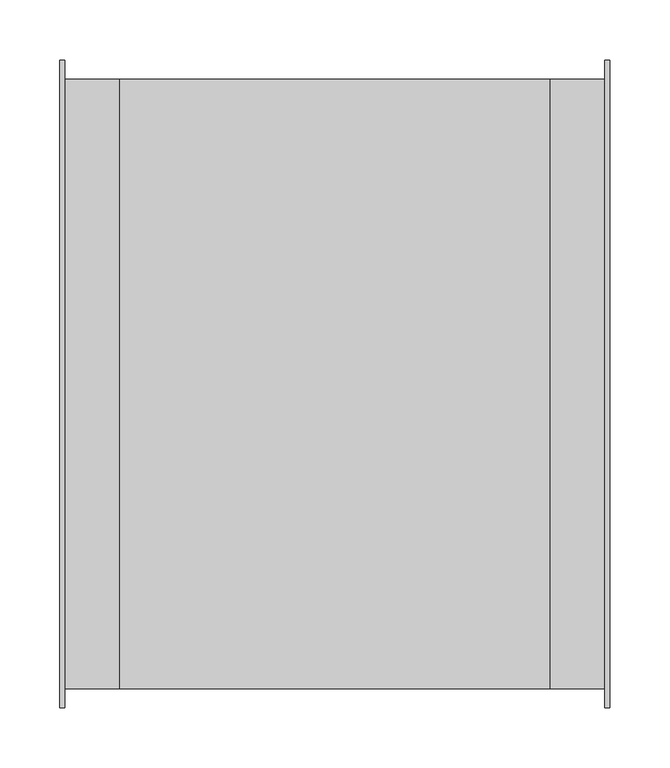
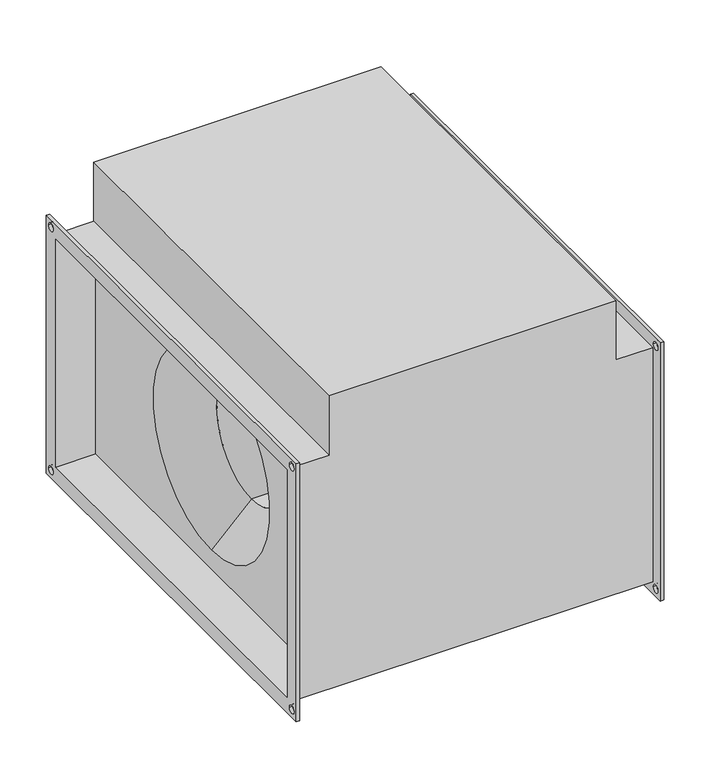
"""IFC4 building model written with IfcOpenShell, lengths in millimetres: proxy geometry, СВ_Вентилятор_КанальныйПрямоугольный_200-1000_SVPS : SVPS-500x300/25.2D."""

from ifc_helpers import new_model, si_unit, frame, origin, place, context, project, spatial, polyline, circle_curve, source, transform, mapped, element, save
from ifc_brep_helpers import plane_surface, revolved_surface, advanced_brep


def mechanical_equipment_14663cc1(model_context):
    return source(origin(), model_context, "Body", "AdvancedBrep", [
        advanced_brep(
        [(-225.0, -254.0, 154.0), (-179.0, -254.0, 154.0), (-179.0, 254.0, 154.0), (-225.0, 254.0, 154.0), (179.0, 254.0, 232.0), (179.0, -254.0, 232.0), (179.0, -254.0, 154.0), (179.0, 254.0, 154.0), (179.0, 250.0, -150.0), (179.0, 250.0, 150.0), (179.0, -250.0, 150.0), (179.0, -250.0, -150.0), (179.0, 0.0, 125.0), (179.0, 0.0, -125.0), (-179.0, 250.0, 150.0), (-179.0, 250.0, -150.0), (-179.0, -250.0, -150.0), (-179.0, -250.0, 150.0), (-179.0, 0.0, -125.0), (-179.0, 0.0, 125.0), (-179.0, -254.0, 232.0), (-179.0, 254.0, 232.0), (-225.0, -254.0, -154.0), (225.0, -254.0, -154.0), (225.0, -254.0, 154.0), (-225.0, 254.0, -154.0), (225.0, 254.0, -154.0), (225.0, 254.0, 154.0), (129.0, 0.0, -75.0), (129.0, 0.0, 75.0), (-129.0, 0.0, 75.0), (-129.0, 0.0, -75.0), (-229.0, -270.0, 170.0), (-229.0, 270.0, 170.0), (-229.0, 270.0, -170.0), (-229.0, -270.0, -170.0), (-229.0, -250.0, 150.0), (-229.0, -250.0, -150.0), (-229.0, 250.0, -150.0), (-229.0, 250.0, 150.0), (-229.0, 255.0, 160.0), (-229.0, 265.0, 160.0), (-229.0, -265.0, 160.0), (-229.0, -255.0, 160.0), (-229.0, -265.0, -160.0), (-229.0, -255.0, -160.0), (-229.0, 255.0, -160.0), (-229.0, 265.0, -160.0), (-225.0, -270.0, 170.0), (-225.0, -270.0, -170.0), (-225.0, 270.0, -170.0), (-225.0, 270.0, 170.0), (-225.0, 265.0, 160.0), (-225.0, 255.0, 160.0), (-225.0, -255.0, 160.0), (-225.0, -265.0, 160.0), (-225.0, -255.0, -160.0), (-225.0, -265.0, -160.0), (-225.0, 265.0, -160.0), (-225.0, 255.0, -160.0), (225.0, 270.0, 170.0), (225.0, 270.0, -170.0), (225.0, -270.0, -170.0), (225.0, -270.0, 170.0), (225.0, 255.0, 160.0), (225.0, 265.0, 160.0), (225.0, -265.0, 160.0), (225.0, -255.0, 160.0), (225.0, -265.0, -160.0), (225.0, -255.0, -160.0), (225.0, 255.0, -160.0), (225.0, 265.0, -160.0), (229.0, 270.0, 170.0), (229.0, -270.0, 170.0), (229.0, -270.0, -170.0), (229.0, 270.0, -170.0), (229.0, 250.0, 150.0), (229.0, 250.0, -150.0), (229.0, -250.0, -150.0), (229.0, -250.0, 150.0), (229.0, 265.0, 160.0), (229.0, 255.0, 160.0), (229.0, -255.0, 160.0), (229.0, -265.0, 160.0), (229.0, -255.0, -160.0), (229.0, -265.0, -160.0), (229.0, 265.0, -160.0), (229.0, 255.0, -160.0)],
        [
            (0, 1),
            (1, 2),
            (2, 3),
            (3, 0),
            (4, 5),
            (5, 6),
            (6, 7),
            (7, 4),
            (8, 9),
            (9, 10),
            (10, 11),
            (11, 8),
            (12, 13, circle_curve(frame((179.0, 0.0, 0.0), z_axis=(-1.0, 0.0, 0.0), x_axis=(0.0, 0.0, 1.0)), 125.0)),
            (13, 12, circle_curve(frame((179.0, 0.0, 0.0), z_axis=(-1.0, 0.0, 0.0), x_axis=(0.0, 0.0, 1.0)), 125.0)),
            (14, 15),
            (15, 16),
            (16, 17),
            (17, 14),
            (18, 19, circle_curve(frame((-179.0, 0.0, 0.0), z_axis=(1.0, 0.0, 0.0), x_axis=(0.0, 0.0, 1.0)), 125.0)),
            (19, 18, circle_curve(frame((-179.0, 0.0, 0.0), z_axis=(1.0, 0.0, 0.0), x_axis=(0.0, 0.0, 1.0)), 125.0)),
            (20, 21),
            (21, 2),
            (1, 20),
            (5, 20),
            (0, 22),
            (22, 23),
            (23, 24),
            (24, 6),
            (22, 25),
            (25, 26),
            (26, 23),
            (21, 4),
            (7, 27),
            (27, 26),
            (25, 3),
            (24, 27),
            (28, 13),
            (12, 29),
            (29, 28, circle_curve(frame((129.0, 0.0, 0.0), z_axis=(-1.0, 0.0, 0.0), x_axis=(0.0, 0.0, 1.0)), 75.0)),
            (28, 29, circle_curve(frame((129.0, 0.0, 0.0), z_axis=(-1.0, 0.0, 0.0), x_axis=(0.0, 0.0, 1.0)), 75.0)),
            (29, 30),
            (30, 31, circle_curve(frame((-129.0, 0.0, 0.0), z_axis=(-1.0, 0.0, 0.0), x_axis=(0.0, 0.0, 1.0)), 75.0)),
            (31, 28),
            (31, 30, circle_curve(frame((-129.0, 0.0, 0.0), z_axis=(-1.0, 0.0, 0.0), x_axis=(0.0, 0.0, 1.0)), 75.0)),
            (30, 19),
            (18, 31),
            (32, 33),
            (33, 34),
            (34, 35),
            (35, 32),
            (36, 37),
            (37, 38),
            (38, 39),
            (39, 36),
            (40, 41, circle_curve(frame((-229.0, 260.0, 160.0), z_axis=(1.0, 0.0, 0.0), x_axis=(0.0, 1.0, 0.0)), 5.0)),
            (41, 40, circle_curve(frame((-229.0, 260.0, 160.0), z_axis=(1.0, 0.0, 0.0), x_axis=(0.0, 1.0, 0.0)), 5.0)),
            (42, 43, circle_curve(frame((-229.0, -260.0, 160.0), z_axis=(1.0, 0.0, 0.0), x_axis=(0.0, 1.0, 0.0)), 5.0)),
            (43, 42, circle_curve(frame((-229.0, -260.0, 160.0), z_axis=(1.0, 0.0, 0.0), x_axis=(0.0, 1.0, 0.0)), 5.0)),
            (44, 45, circle_curve(frame((-229.0, -260.0, -160.0), z_axis=(1.0, 0.0, 0.0), x_axis=(0.0, 1.0, 0.0)), 5.0)),
            (45, 44, circle_curve(frame((-229.0, -260.0, -160.0), z_axis=(1.0, 0.0, 0.0), x_axis=(0.0, 1.0, 0.0)), 5.0)),
            (46, 47, circle_curve(frame((-229.0, 260.0, -160.0), z_axis=(1.0, 0.0, 0.0), x_axis=(0.0, 1.0, 0.0)), 5.0)),
            (47, 46, circle_curve(frame((-229.0, 260.0, -160.0), z_axis=(1.0, 0.0, 0.0), x_axis=(0.0, 1.0, 0.0)), 5.0)),
            (48, 49),
            (49, 50),
            (50, 51),
            (51, 48),
            (52, 53, circle_curve(frame((-225.0, 260.0, 160.0), z_axis=(-1.0, 0.0, 0.0), x_axis=(0.0, 1.0, 0.0)), 5.0)),
            (53, 52, circle_curve(frame((-225.0, 260.0, 160.0), z_axis=(-1.0, 0.0, 0.0), x_axis=(0.0, 1.0, 0.0)), 5.0)),
            (54, 55, circle_curve(frame((-225.0, -260.0, 160.0), z_axis=(-1.0, 0.0, 0.0), x_axis=(0.0, 1.0, 0.0)), 5.0)),
            (55, 54, circle_curve(frame((-225.0, -260.0, 160.0), z_axis=(-1.0, 0.0, 0.0), x_axis=(0.0, 1.0, 0.0)), 5.0)),
            (56, 57, circle_curve(frame((-225.0, -260.0, -160.0), z_axis=(-1.0, 0.0, 0.0), x_axis=(0.0, 1.0, 0.0)), 5.0)),
            (57, 56, circle_curve(frame((-225.0, -260.0, -160.0), z_axis=(-1.0, 0.0, 0.0), x_axis=(0.0, 1.0, 0.0)), 5.0)),
            (58, 59, circle_curve(frame((-225.0, 260.0, -160.0), z_axis=(-1.0, 0.0, 0.0), x_axis=(0.0, 1.0, 0.0)), 5.0)),
            (59, 58, circle_curve(frame((-225.0, 260.0, -160.0), z_axis=(-1.0, 0.0, 0.0), x_axis=(0.0, 1.0, 0.0)), 5.0)),
            (35, 49),
            (48, 32),
            (34, 50),
            (33, 51),
            (60, 61),
            (61, 62),
            (62, 63),
            (63, 60),
            (64, 65, circle_curve(frame((225.0, 260.0, 160.0), z_axis=(1.0, 0.0, 0.0), x_axis=(0.0, 1.0, 0.0)), 5.0)),
            (65, 64, circle_curve(frame((225.0, 260.0, 160.0), z_axis=(1.0, 0.0, 0.0), x_axis=(0.0, 1.0, 0.0)), 5.0)),
            (66, 67, circle_curve(frame((225.0, -260.0, 160.0), z_axis=(1.0, 0.0, 0.0), x_axis=(0.0, 1.0, 0.0)), 5.0)),
            (67, 66, circle_curve(frame((225.0, -260.0, 160.0), z_axis=(1.0, 0.0, 0.0), x_axis=(0.0, 1.0, 0.0)), 5.0)),
            (68, 69, circle_curve(frame((225.0, -260.0, -160.0), z_axis=(1.0, 0.0, 0.0), x_axis=(0.0, 1.0, 0.0)), 5.0)),
            (69, 68, circle_curve(frame((225.0, -260.0, -160.0), z_axis=(1.0, 0.0, 0.0), x_axis=(0.0, 1.0, 0.0)), 5.0)),
            (70, 71, circle_curve(frame((225.0, 260.0, -160.0), z_axis=(1.0, 0.0, 0.0), x_axis=(0.0, 1.0, 0.0)), 5.0)),
            (71, 70, circle_curve(frame((225.0, 260.0, -160.0), z_axis=(1.0, 0.0, 0.0), x_axis=(0.0, 1.0, 0.0)), 5.0)),
            (72, 73),
            (73, 74),
            (74, 75),
            (75, 72),
            (76, 77),
            (77, 78),
            (78, 79),
            (79, 76),
            (80, 81, circle_curve(frame((229.0, 260.0, 160.0), z_axis=(-1.0, 0.0, 0.0), x_axis=(0.0, 1.0, 0.0)), 5.0)),
            (81, 80, circle_curve(frame((229.0, 260.0, 160.0), z_axis=(-1.0, 0.0, 0.0), x_axis=(0.0, 1.0, 0.0)), 5.0)),
            (82, 83, circle_curve(frame((229.0, -260.0, 160.0), z_axis=(-1.0, 0.0, 0.0), x_axis=(0.0, 1.0, 0.0)), 5.0)),
            (83, 82, circle_curve(frame((229.0, -260.0, 160.0), z_axis=(-1.0, 0.0, 0.0), x_axis=(0.0, 1.0, 0.0)), 5.0)),
            (84, 85, circle_curve(frame((229.0, -260.0, -160.0), z_axis=(-1.0, 0.0, 0.0), x_axis=(0.0, 1.0, 0.0)), 5.0)),
            (85, 84, circle_curve(frame((229.0, -260.0, -160.0), z_axis=(-1.0, 0.0, 0.0), x_axis=(0.0, 1.0, 0.0)), 5.0)),
            (86, 87, circle_curve(frame((229.0, 260.0, -160.0), z_axis=(-1.0, 0.0, 0.0), x_axis=(0.0, 1.0, 0.0)), 5.0)),
            (87, 86, circle_curve(frame((229.0, 260.0, -160.0), z_axis=(-1.0, 0.0, 0.0), x_axis=(0.0, 1.0, 0.0)), 5.0)),
            (63, 73),
            (72, 60),
            (62, 74),
            (61, 75),
            (39, 14),
            (17, 36),
            (38, 15),
            (37, 16),
            (76, 9),
            (8, 77),
            (11, 78),
            (10, 79),
            (40, 53),
            (52, 41),
            (64, 81),
            (80, 65),
            (42, 55),
            (54, 43),
            (66, 83),
            (82, 67),
            (44, 57),
            (56, 45),
            (68, 85),
            (84, 69),
            (46, 59),
            (58, 47),
            (70, 87),
            (86, 71),
        ],
        [
            plane_surface(frame((-179.0, 254.0, 154.0), z_axis=(0.0, 0.0, 1.0), x_axis=(-1.0, 0.0, 0.0))),
            plane_surface(frame((179.0, -254.0, 232.0), z_axis=(1.0, 0.0, 0.0), x_axis=(0.0, 0.0, -1.0))),
            plane_surface(frame((-179.0, -254.0, 232.0), z_axis=(-1.0, 0.0, 0.0), x_axis=(0.0, 0.0, 1.0))),
            plane_surface(frame((179.0, -254.0, 232.0), z_axis=(0.0, -1.0, 0.0), x_axis=(-1.0, 0.0, 0.0))),
            plane_surface(frame((179.0, -254.0, -154.0), z_axis=(0.0, 0.0, -1.0), x_axis=(-1.0, 0.0, 0.0))),
            plane_surface(frame((179.0, 254.0, -154.0), z_axis=(0.0, 1.0, 0.0), x_axis=(-1.0, 0.0, 0.0))),
            plane_surface(frame((179.0, 254.0, 232.0), z_axis=(0.0, 0.0, 1.0), x_axis=(-1.0, 0.0, 0.0))),
            plane_surface(frame((225.0, 254.0, 154.0), z_axis=(0.0, 0.0, 1.0), x_axis=(-1.0, 0.0, 0.0))),
            revolved_surface(polyline([(129.0, 0.0, 75.0), (179.0, 0.0, 125.0)]), (-616.0617897, 0.0, 0.0), (-1.0, 0.0, 0.0)),
            revolved_surface(polyline([(-129.0, 0.0, 75.0), (129.0, 0.0, 75.0)]), (-616.0617897, 0.0, 0.0), (-1.0, 0.0, 0.0)),
            revolved_surface(polyline([(-179.0, 0.0, 125.0), (-129.0, 0.0, 75.0)]), (-616.0617897, 0.0, 0.0), (-1.0, 0.0, 0.0)),
            plane_surface(frame((-229.0, -270.0, 170.0), z_axis=(-1.0, 0.0, 0.0), x_axis=(0.0, 0.0, 1.0))),
            plane_surface(frame((-225.0, -270.0, 170.0), z_axis=(1.0, 0.0, 0.0), x_axis=(0.0, 0.0, -1.0))),
            plane_surface(frame((-225.0, -270.0, 170.0), z_axis=(0.0, -1.0, 0.0), x_axis=(-1.0, 0.0, 0.0))),
            plane_surface(frame((-225.0, -270.0, -170.0), z_axis=(0.0, 0.0, -1.0), x_axis=(-1.0, 0.0, 0.0))),
            plane_surface(frame((-225.0, 270.0, -170.0), z_axis=(0.0, 1.0, 0.0), x_axis=(-1.0, 0.0, 0.0))),
            plane_surface(frame((-225.0, 270.0, 170.0), z_axis=(0.0, 0.0, 1.0), x_axis=(-1.0, 0.0, 0.0))),
            plane_surface(frame((225.0, 250.0, -150.0), z_axis=(-1.0, 0.0, 0.0), x_axis=(0.0, 0.0, 1.0))),
            plane_surface(frame((229.0, 250.0, -150.0), z_axis=(1.0, 0.0, 0.0), x_axis=(0.0, 0.0, -1.0))),
            plane_surface(frame((229.0, 270.0, 170.0), z_axis=(0.0, 0.0, 1.0), x_axis=(-1.0, 0.0, 0.0))),
            plane_surface(frame((229.0, -270.0, 170.0), z_axis=(0.0, -1.0, 0.0), x_axis=(-1.0, 0.0, 0.0))),
            plane_surface(frame((229.0, -270.0, -170.0), z_axis=(0.0, 0.0, -1.0), x_axis=(-1.0, 0.0, 0.0))),
            plane_surface(frame((229.0, 270.0, -170.0), z_axis=(0.0, 1.0, 0.0), x_axis=(-1.0, 0.0, 0.0))),
            plane_surface(frame((-225.0, -250.0, 150.0), z_axis=(0.0, 0.0, -1.0), x_axis=(-1.0, 0.0, 0.0))),
            plane_surface(frame((-225.0, 250.0, 150.0), z_axis=(0.0, -1.0, 0.0), x_axis=(-1.0, 0.0, 0.0))),
            plane_surface(frame((-225.0, 250.0, -150.0), z_axis=(0.0, 0.0, 1.0), x_axis=(-1.0, 0.0, 0.0))),
            plane_surface(frame((-225.0, -250.0, -150.0), z_axis=(0.0, 1.0, 0.0), x_axis=(-1.0, 0.0, 0.0))),
            plane_surface(frame((229.0, 250.0, 150.0), z_axis=(0.0, -1.0, 0.0), x_axis=(-1.0, 0.0, 0.0))),
            plane_surface(frame((229.0, 250.0, -150.0), z_axis=(0.0, 0.0, 1.0), x_axis=(-1.0, 0.0, 0.0))),
            plane_surface(frame((229.0, -250.0, -150.0), z_axis=(0.0, 1.0, 0.0), x_axis=(-1.0, 0.0, 0.0))),
            plane_surface(frame((229.0, -250.0, 150.0), z_axis=(0.0, 0.0, -1.0), x_axis=(-1.0, 0.0, 0.0))),
            revolved_surface(polyline([(-225.0, 265.0, 160.0), (-229.0, 265.0, 160.0)]), (-229.0, 260.0, 160.0), (1.0, 0.0, 0.0)),
            revolved_surface(polyline([(229.0, 265.0, 160.0), (225.0, 265.0, 160.0)]), (-229.0, 260.0, 160.0), (1.0, 0.0, 0.0)),
            revolved_surface(polyline([(-225.0, -255.0, 160.0), (-229.0, -255.0, 160.0)]), (0.0, -260.0, 160.0), (1.0, 0.0, 0.0)),
            revolved_surface(polyline([(229.0, -255.0, 160.0), (225.0, -255.0, 160.0)]), (0.0, -260.0, 160.0), (1.0, 0.0, 0.0)),
            revolved_surface(polyline([(-225.0, -255.0, -160.0), (-229.0, -255.0, -160.0)]), (0.0, -260.0, -160.0), (1.0, 0.0, 0.0)),
            revolved_surface(polyline([(229.0, -255.0, -160.0), (225.0, -255.0, -160.0)]), (0.0, -260.0, -160.0), (1.0, 0.0, 0.0)),
            revolved_surface(polyline([(-225.0, 265.0, -160.0), (-229.0, 265.0, -160.0)]), (0.0, 260.0, -160.0), (1.0, 0.0, 0.0)),
            revolved_surface(polyline([(229.0, 265.0, -160.0), (225.0, 265.0, -160.0)]), (0.0, 260.0, -160.0), (1.0, 0.0, 0.0)),
        ],
        [
            (0, [[1, 2, 3, 4]]),
            (1, [[5, 6, 7, 8]]),
            (1, [[9, 10, 11, 12], [13, 14]]),
            (2, [[15, 16, 17, 18], [19, 20]]),
            (2, [[21, 22, -2, 23]]),
            (3, [[24, -23, -1, 25, 26, 27, 28, -6]]),
            (4, [[-26, 29, 30, 31]]),
            (5, [[32, -8, 33, 34, -30, 35, -3, -22]]),
            (6, [[-5, -32, -21, -24]]),
            (7, [[-28, 36, -33, -7]]),
            (8, [[37, -13, 38, 39]]),
            (8, [[-37, 40, -38, -14]]),
            (9, [[-39, 41, 42, 43]]),
            (9, [[-40, -43, 44, -41]]),
            (10, [[-42, 45, -19, 46]]),
            (10, [[-44, -46, -20, -45]]),
            (11, [[47, 48, 49, 50], [51, 52, 53, 54], [55, 56], [57, 58], [59, 60], [61, 62]]),
            (12, [[63, 64, 65, 66], [-25, -4, -35, -29], [67, 68], [69, 70], [71, 72], [73, 74]]),
            (13, [[-50, 75, -63, 76]]),
            (14, [[-49, 77, -64, -75]]),
            (15, [[-48, 78, -65, -77]]),
            (16, [[-47, -76, -66, -78]]),
            (17, [[79, 80, 81, 82], [-27, -31, -34, -36], [83, 84], [85, 86], [87, 88], [89, 90]]),
            (18, [[91, 92, 93, 94], [95, 96, 97, 98], [99, 100], [101, 102], [103, 104], [105, 106]]),
            (19, [[-82, 107, -91, 108]]),
            (20, [[-81, 109, -92, -107]]),
            (21, [[-80, 110, -93, -109]]),
            (22, [[-79, -108, -94, -110]]),
            (23, [[-54, 111, -18, 112]]),
            (24, [[-53, 113, -15, -111]]),
            (25, [[-52, 114, -16, -113]]),
            (26, [[-51, -112, -17, -114]]),
            (27, [[-95, 115, -9, 116]]),
            (28, [[-96, -116, -12, 117]]),
            (29, [[-97, -117, -11, 118]]),
            (30, [[-115, -98, -118, -10]]),
            (31, [[119, -67, 120, -55]]),
            (32, [[121, -99, 122, -83]]),
            (31, [[-119, -56, -120, -68]]),
            (32, [[-121, -84, -122, -100]]),
            (33, [[123, -69, 124, -57]]),
            (34, [[125, -101, 126, -85]]),
            (33, [[-123, -58, -124, -70]]),
            (34, [[-125, -86, -126, -102]]),
            (35, [[127, -71, 128, -59]]),
            (36, [[129, -103, 130, -87]]),
            (35, [[-127, -60, -128, -72]]),
            (36, [[-129, -88, -130, -104]]),
            (37, [[131, -73, 132, -61]]),
            (38, [[133, -105, 134, -89]]),
            (37, [[-131, -62, -132, -74]]),
            (38, [[-133, -90, -134, -106]]),
        ],
    ),
    ])


if __name__ == "__main__":
    model = new_model("IFC4")
    model_context = context("Model", 3, world=origin())
    ifc_project = project(units=[si_unit("LENGTHUNIT", "METRE", prefix="MILLI")], contexts=[model_context])
    site = spatial("IfcSite", under=ifc_project)
    building = spatial("IfcBuilding", under=site)
    placement = place(None, origin())
    mechanical_equipment_shape = mechanical_equipment_14663cc1(model_context)
    element("IfcBuildingElementProxy", 1, Name="СВ_Вентилятор_КанальныйПрямоугольный_200-1000_SVPS : SVPS-500x300/25.2D", ObjectType="СВ_Вентилятор_КанальныйПрямоугольный_200-1000_SVPS : SVPS-500x300/25.2D", at=placement, inside=building, context=model_context, shape_type="MappedRepresentation", body=[
        mapped(mechanical_equipment_shape, transform((0.0, 0.0, 0.0), x_axis=(1.0, 0.0, 0.0), y_axis=(0.0, 1.0, 0.0), z_axis=(0.0, 0.0, 1.0))),
    ])
    save(model, "model.ifc")
